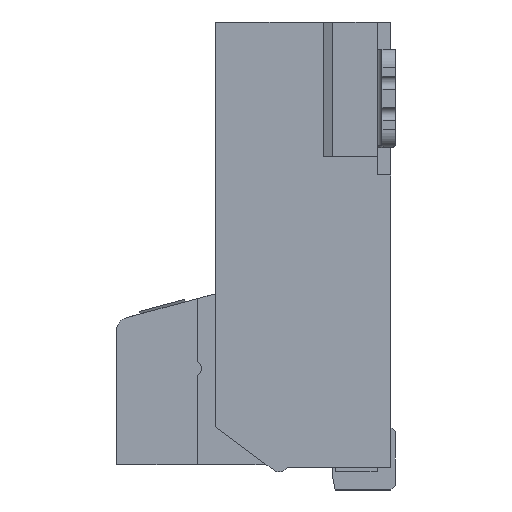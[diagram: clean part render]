
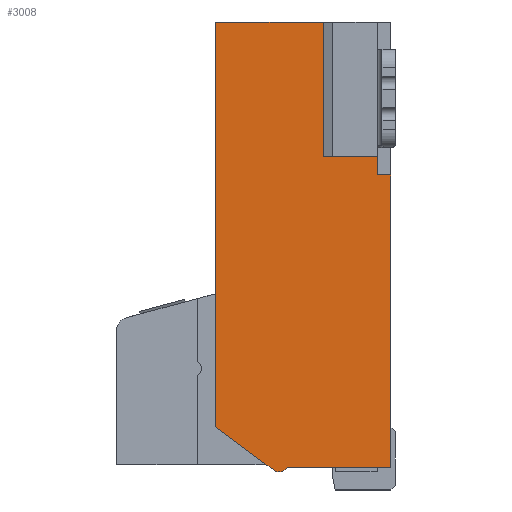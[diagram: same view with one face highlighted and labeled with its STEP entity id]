
A CAD part, left-side view. The second image highlights one B-rep face of the part: STEP entity #3008.
In plain terms, the highlighted planar face has unit normal (-1, 0, 0).
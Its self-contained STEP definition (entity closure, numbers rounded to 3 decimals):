
#7 = EDGE_LOOP ( 'NONE', ( #5362, #593, #5389, #565, #1208, #1311, #5306, #481, #5303, #1216 ) ) ;
#267 = VECTOR ( 'NONE', #11653, 1000. ) ;
#481 = ORIENTED_EDGE ( 'NONE', *, *, #12679, .F. ) ;
#565 = ORIENTED_EDGE ( 'NONE', *, *, #2868, .F. ) ;
#593 = ORIENTED_EDGE ( 'NONE', *, *, #2799, .F. ) ;
#1208 = ORIENTED_EDGE ( 'NONE', *, *, #5039, .F. ) ;
#1216 = ORIENTED_EDGE ( 'NONE', *, *, #5037, .T. ) ;
#1311 = ORIENTED_EDGE ( 'NONE', *, *, #2871, .T. ) ;
#1578 = EDGE_CURVE ( 'NONE', #11501, #4758, #11642, .T. ) ;
#2799 = EDGE_CURVE ( 'NONE', #12410, #12400, #11897, .T. ) ;
#2868 = EDGE_CURVE ( 'NONE', #4790, #12337, #12116, .T. ) ;
#2871 = EDGE_CURVE ( 'NONE', #12342, #4734, #12121, .T. ) ;
#3008 = ADVANCED_FACE ( 'NONE', ( #6101 ), #6102, .F. ) ;
#3500 = VECTOR ( 'NONE', #6282, 1000. ) ;
#3875 = EDGE_CURVE ( 'NONE', #11535, #4734, #6280, .T. ) ;
#4734 = VERTEX_POINT ( 'NONE', #8751 ) ;
#4758 = VERTEX_POINT ( 'NONE', #8775 ) ;
#4790 = VERTEX_POINT ( 'NONE', #8807 ) ;
#4834 = VERTEX_POINT ( 'NONE', #8851 ) ;
#5037 = EDGE_CURVE ( 'NONE', #4758, #4834, #7946, .T. ) ;
#5039 = EDGE_CURVE ( 'NONE', #12342, #4790, #8887, .T. ) ;
#5043 = EDGE_CURVE ( 'NONE', #4834, #12400, #8899, .T. ) ;
#5047 = EDGE_CURVE ( 'NONE', #12337, #12410, #8911, .T. ) ;
#5291 = VECTOR ( 'NONE', #11900, 1000. ) ;
#5303 = ORIENTED_EDGE ( 'NONE', *, *, #1578, .T. ) ;
#5306 = ORIENTED_EDGE ( 'NONE', *, *, #3875, .F. ) ;
#5362 = ORIENTED_EDGE ( 'NONE', *, *, #5043, .T. ) ;
#5389 = ORIENTED_EDGE ( 'NONE', *, *, #5047, .F. ) ;
#6093 = CARTESIAN_POINT ( 'NONE',  ( -7.25, 0., 5.2 ) ) ;
#6101 = FACE_OUTER_BOUND ( 'NONE', #7, .T. ) ;
#6102 = PLANE ( 'NONE',  #12747 ) ;
#6104 = DIRECTION ( 'NONE',  ( 1., 0., 0. ) ) ;
#6105 = DIRECTION ( 'NONE',  ( 0., 0., -1. ) ) ;
#6280 = LINE ( 'NONE', #6281, #3500 ) ;
#6281 = CARTESIAN_POINT ( 'NONE',  ( -7.25, 2., 5.2 ) ) ;
#6282 = DIRECTION ( 'NONE',  ( 0., -1., 0. ) ) ;
#7946 = CIRCLE ( 'NONE', #7949, 0.1 ) ;
#7948 = VECTOR ( 'NONE', #8889, 1000. ) ;
#7949 = AXIS2_PLACEMENT_3D ( 'NONE', #8883, #8884, #8885 ) ;
#7956 = VECTOR ( 'NONE', #8901, 1000. ) ;
#7960 = VECTOR ( 'NONE', #8913, 1000. ) ;
#8751 = CARTESIAN_POINT ( 'NONE',  ( -7.25, 0.8, 5.2 ) ) ;
#8775 = CARTESIAN_POINT ( 'NONE',  ( -7.25, 1.349, 0.22 ) ) ;
#8807 = CARTESIAN_POINT ( 'NONE',  ( -7.25, 0.2, 3.7 ) ) ;
#8851 = CARTESIAN_POINT ( 'NONE',  ( -7.25, 1.205, 0.248 ) ) ;
#8883 = CARTESIAN_POINT ( 'NONE',  ( -7.25, 1.29, 0.3 ) ) ;
#8884 = DIRECTION ( 'NONE',  ( -1., 0., 0. ) ) ;
#8885 = DIRECTION ( 'NONE',  ( 0., 0., 1. ) ) ;
#8887 = LINE ( 'NONE', #8888, #7948 ) ;
#8888 = CARTESIAN_POINT ( 'NONE',  ( -7.25, 0.05, 3.7 ) ) ;
#8889 = DIRECTION ( 'NONE',  ( 0., -1., 0. ) ) ;
#8899 = LINE ( 'NONE', #8900, #7956 ) ;
#8900 = CARTESIAN_POINT ( 'NONE',  ( -7.25, 1.205, 0.248 ) ) ;
#8901 = DIRECTION ( 'NONE',  ( 0., -1., 0. ) ) ;
#8911 = LINE ( 'NONE', #8912, #7960 ) ;
#8912 = CARTESIAN_POINT ( 'NONE',  ( -7.25, 0.05, 3.5 ) ) ;
#8913 = DIRECTION ( 'NONE',  ( 0., -1., 0. ) ) ;
#9697 = CARTESIAN_POINT ( 'NONE',  ( -7.25, 2., 0.7 ) ) ;
#9710 = CARTESIAN_POINT ( 'NONE',  ( -7.25, 2., 5.2 ) ) ;
#9734 = CARTESIAN_POINT ( 'NONE',  ( -7.25, 0.2, 3.5 ) ) ;
#9746 = CARTESIAN_POINT ( 'NONE',  ( -7.25, 0.8, 3.7 ) ) ;
#9804 = CARTESIAN_POINT ( 'NONE',  ( -7.25, 0.05, 0.248 ) ) ;
#9814 = CARTESIAN_POINT ( 'NONE',  ( -7.25, 0.05, 3.5 ) ) ;
#10699 = VECTOR ( 'NONE', #10891, 1000. ) ;
#10889 = LINE ( 'NONE', #10890, #10699 ) ;
#10890 = CARTESIAN_POINT ( 'NONE',  ( -7.25, 2., 0.2 ) ) ;
#10891 = DIRECTION ( 'NONE',  ( 0., 0., 1. ) ) ;
#11501 = VERTEX_POINT ( 'NONE', #9697 ) ;
#11535 = VERTEX_POINT ( 'NONE', #9710 ) ;
#11642 = LINE ( 'NONE', #11651, #267 ) ;
#11651 = CARTESIAN_POINT ( 'NONE',  ( -7.25, 1.932, 0.65 ) ) ;
#11653 = DIRECTION ( 'NONE',  ( 0., -0.804, -0.594 ) ) ;
#11897 = LINE ( 'NONE', #11899, #5291 ) ;
#11899 = CARTESIAN_POINT ( 'NONE',  ( -7.25, 0.05, 0.65 ) ) ;
#11900 = DIRECTION ( 'NONE',  ( 0., 0., -1. ) ) ;
#12116 = LINE ( 'NONE', #12123, #12225 ) ;
#12121 = LINE ( 'NONE', #12132, #12218 ) ;
#12123 = CARTESIAN_POINT ( 'NONE',  ( -7.25, 0.2, 3.5 ) ) ;
#12125 = DIRECTION ( 'NONE',  ( 0., 0., -1. ) ) ;
#12132 = CARTESIAN_POINT ( 'NONE',  ( -7.25, 0.8, 3.7 ) ) ;
#12133 = DIRECTION ( 'NONE',  ( 0., 0., 1. ) ) ;
#12218 = VECTOR ( 'NONE', #12133, 1000. ) ;
#12225 = VECTOR ( 'NONE', #12125, 1000. ) ;
#12337 = VERTEX_POINT ( 'NONE', #9734 ) ;
#12342 = VERTEX_POINT ( 'NONE', #9746 ) ;
#12400 = VERTEX_POINT ( 'NONE', #9804 ) ;
#12410 = VERTEX_POINT ( 'NONE', #9814 ) ;
#12679 = EDGE_CURVE ( 'NONE', #11501, #11535, #10889, .T. ) ;
#12747 = AXIS2_PLACEMENT_3D ( 'NONE', #6093, #6104, #6105 ) ;
